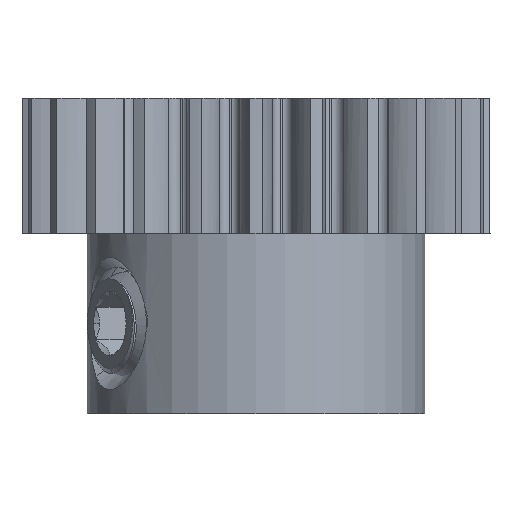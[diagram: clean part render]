
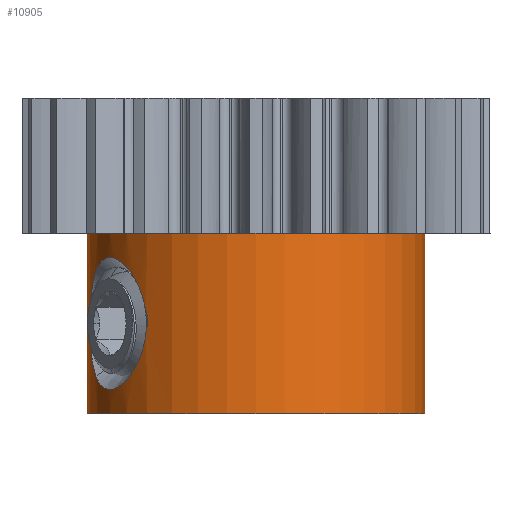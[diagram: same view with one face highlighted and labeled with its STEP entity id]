
A CAD part, front view. The second image highlights one B-rep face of the part: STEP entity #10905.
In plain terms, the highlighted cylindrical face has radius 7.5 mm (diameter 15 mm), a partial arc.
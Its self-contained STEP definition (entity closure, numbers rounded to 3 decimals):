
#499 = CARTESIAN_POINT ( 'NONE',  ( -7.5, 0., -8. ) ) ;
#663 = CARTESIAN_POINT ( 'NONE',  ( -5.617, -4.97, -1.655 ) ) ;
#704 = CARTESIAN_POINT ( 'NONE',  ( -6.387, -3.935, -1.071 ) ) ;
#718 = CARTESIAN_POINT ( 'NONE',  ( -4.922, -5.659, -3.327 ) ) ;
#778 = CARTESIAN_POINT ( 'NONE',  ( -4.88, -5.695, -3.68 ) ) ;
#779 = DIRECTION ( 'NONE',  ( 1., 0., 0. ) ) ;
#828 = CARTESIAN_POINT ( 'NONE',  ( -7.329, -1.602, -2.737 ) ) ;
#889 = CARTESIAN_POINT ( 'NONE',  ( -7.156, -2.251, -6.228 ) ) ;
#1019 = CARTESIAN_POINT ( 'NONE',  ( -5.117, -5.484, -5.42 ) ) ;
#1038 = CARTESIAN_POINT ( 'NONE',  ( 7.5, 0., -8. ) ) ;
#1084 = ORIENTED_EDGE ( 'NONE', *, *, #9774, .T. ) ;
#1369 = CIRCLE ( 'NONE', #12114, 7.5 ) ;
#1570 = EDGE_CURVE ( 'NONE', #2263, #11127, #13764, .T. ) ;
#2123 = VECTOR ( 'NONE', #8057, 1000. ) ;
#2168 = CARTESIAN_POINT ( 'NONE',  ( -6.653, -3.466, -1.086 ) ) ;
#2263 = VERTEX_POINT ( 'NONE', #17162 ) ;
#2305 = CIRCLE ( 'NONE', #12269, 7.5 ) ;
#2310 = CARTESIAN_POINT ( 'NONE',  ( -4.935, -5.648, -4.747 ) ) ;
#2438 = CARTESIAN_POINT ( 'NONE',  ( -6.426, -3.872, -6.935 ) ) ;
#2504 = CARTESIAN_POINT ( 'NONE',  ( -5.244, -5.362, -5.73 ) ) ;
#3439 = DIRECTION ( 'NONE',  ( 0., 0., 1. ) ) ;
#3718 = CARTESIAN_POINT ( 'NONE',  ( -4.874, -5.701, -4.219 ) ) ;
#3776 = CARTESIAN_POINT ( 'NONE',  ( -6.603, -3.562, -6.928 ) ) ;
#3823 = CARTESIAN_POINT ( 'NONE',  ( -5.617, -4.97, -1.655 ) ) ;
#4886 = DIRECTION ( 'NONE',  ( -1., 0., 0. ) ) ;
#4947 = CARTESIAN_POINT ( 'NONE',  ( -4.87, -5.703, -3.861 ) ) ;
#5177 = CARTESIAN_POINT ( 'NONE',  ( -7.192, -2.131, -6.097 ) ) ;
#5187 = CARTESIAN_POINT ( 'NONE',  ( -5.617, -4.97, -1.655 ) ) ;
#5247 = CARTESIAN_POINT ( 'NONE',  ( -6.997, -2.704, -1.396 ) ) ;
#5582 = EDGE_CURVE ( 'NONE', #12495, #12664, #16182, .T. ) ;
#6298 = CARTESIAN_POINT ( 'NONE',  ( 0., 0., 0. ) ) ;
#6526 = CARTESIAN_POINT ( 'NONE',  ( -5.437, -5.173, -1.888 ) ) ;
#6576 = CARTESIAN_POINT ( 'NONE',  ( -7.24, -1.96, -2.122 ) ) ;
#6631 = CARTESIAN_POINT ( 'NONE',  ( -5.797, -4.766, -1.421 ) ) ;
#6645 = CARTESIAN_POINT ( 'NONE',  ( -4.971, -5.616, -4.923 ) ) ;
#6893 = CARTESIAN_POINT ( 'NONE',  ( -7.026, -2.637, -6.579 ) ) ;
#7386 = LINE ( 'NONE', #1038, #2123 ) ;
#7505 = ORIENTED_EDGE ( 'NONE', *, *, #14404, .T. ) ;
#7946 = EDGE_LOOP ( 'NONE', ( #10553, #10039, #1084, #7505 ) ) ;
#7963 = CARTESIAN_POINT ( 'NONE',  ( -7.357, -1.461, -4.85 ) ) ;
#8015 = CARTESIAN_POINT ( 'NONE',  ( -5.999, -4.515, -1.239 ) ) ;
#8057 = DIRECTION ( 'NONE',  ( 0., 0., 1. ) ) ;
#8156 = CARTESIAN_POINT ( 'NONE',  ( -5.744, -4.825, -6.504 ) ) ;
#8195 = CARTESIAN_POINT ( 'NONE',  ( -7.352, -1.482, -3.074 ) ) ;
#8237 = FACE_OUTER_BOUND ( 'NONE', #7946, .T. ) ;
#8276 = CARTESIAN_POINT ( 'NONE',  ( -6.686, -3.403, -6.902 ) ) ;
#8401 = CARTESIAN_POINT ( 'NONE',  ( -5.563, -5.033, -6.279 ) ) ;
#8715 = CARTESIAN_POINT ( 'NONE',  ( 0., 0., -8. ) ) ;
#8811 = ORIENTED_EDGE ( 'NONE', *, *, #5582, .T. ) ;
#8911 = DIRECTION ( 'NONE',  ( -1., 0., 0. ) ) ;
#9188 = EDGE_CURVE ( 'NONE', #12664, #12495, #10953, .T. ) ;
#9409 = CARTESIAN_POINT ( 'NONE',  ( -7.178, -2.179, -1.849 ) ) ;
#9427 = CARTESIAN_POINT ( 'NONE',  ( -4.954, -5.631, -3.154 ) ) ;
#9473 = CARTESIAN_POINT ( 'NONE',  ( -7.14, -2.3, -1.722 ) ) ;
#9537 = AXIS2_PLACEMENT_3D ( 'NONE', #13804, #13867, #779 ) ;
#9605 = CARTESIAN_POINT ( 'NONE',  ( -7.112, -2.38, -6.345 ) ) ;
#9774 = EDGE_CURVE ( 'NONE', #15999, #11987, #7386, .T. ) ;
#10039 = ORIENTED_EDGE ( 'NONE', *, *, #12651, .F. ) ;
#10386 = VECTOR ( 'NONE', #3439, 1000. ) ;
#10553 = ORIENTED_EDGE ( 'NONE', *, *, #1570, .F. ) ;
#10905 = ADVANCED_FACE ( 'NONE', ( #8237, #17376 ), #16211, .T. ) ;
#10953 = B_SPLINE_CURVE_WITH_KNOTS ( 'NONE', 3,
 ( #18251, #889, #5177, #13907, #16909, #10956, #7963, #18144, #11010, #8195, #828, #15318, #6576, #9409, #9473, #16714, #5247, #12596, #13849, #2168, #15375, #704, #16848, #8015, #6631, #3823 ),
 .UNSPECIFIED., .F., .F.,
 ( 4, 2, 2, 2, 2, 2, 2, 2, 2, 2, 2, 2, 4 ),
 ( 0.002, 0.002, 0.003, 0.004, 0.005, 0.006, 0.007, 0.007, 0.008, 0.008, 0.009, 0.009, 0.01 ),
 .UNSPECIFIED. ) ;
#10956 = CARTESIAN_POINT ( 'NONE',  ( -7.335, -1.572, -5.191 ) ) ;
#11010 = CARTESIAN_POINT ( 'NONE',  ( -7.377, -1.356, -3.781 ) ) ;
#11087 = CARTESIAN_POINT ( 'NONE',  ( -6.135, -4.318, -6.831 ) ) ;
#11127 = VERTEX_POINT ( 'NONE', #11873 ) ;
#11202 = CARTESIAN_POINT ( 'NONE',  ( -5.841, -4.707, -6.605 ) ) ;
#11453 = ORIENTED_EDGE ( 'NONE', *, *, #9188, .T. ) ;
#11873 = CARTESIAN_POINT ( 'NONE',  ( -7.5, 0., 0. ) ) ;
#11987 = VERTEX_POINT ( 'NONE', #17273 ) ;
#12114 = AXIS2_PLACEMENT_3D ( 'NONE', #6298, #16448, #4886 ) ;
#12269 = AXIS2_PLACEMENT_3D ( 'NONE', #8715, #17647, #8911 ) ;
#12495 = VERTEX_POINT ( 'NONE', #5187 ) ;
#12502 = CARTESIAN_POINT ( 'NONE',  ( -6.036, -4.455, -6.767 ) ) ;
#12596 = CARTESIAN_POINT ( 'NONE',  ( -6.876, -2.999, -1.233 ) ) ;
#12651 = EDGE_CURVE ( 'NONE', #15999, #2263, #2305, .T. ) ;
#12664 = VERTEX_POINT ( 'NONE', #15636 ) ;
#13632 = CARTESIAN_POINT ( 'NONE',  ( -5.092, -5.507, -2.648 ) ) ;
#13764 = LINE ( 'NONE', #499, #10386 ) ;
#13804 = CARTESIAN_POINT ( 'NONE',  ( 0., 0., -8. ) ) ;
#13849 = CARTESIAN_POINT ( 'NONE',  ( -6.806, -3.155, -1.169 ) ) ;
#13866 = CARTESIAN_POINT ( 'NONE',  ( -5.062, -5.535, -5.258 ) ) ;
#13867 = DIRECTION ( 'NONE',  ( 0., 0., 1. ) ) ;
#13907 = CARTESIAN_POINT ( 'NONE',  ( -7.252, -1.917, -5.817 ) ) ;
#14404 = EDGE_CURVE ( 'NONE', #11987, #11127, #1369, .T. ) ;
#15086 = CARTESIAN_POINT ( 'NONE',  ( -4.887, -5.689, -4.396 ) ) ;
#15318 = CARTESIAN_POINT ( 'NONE',  ( -7.266, -1.862, -2.268 ) ) ;
#15375 = CARTESIAN_POINT ( 'NONE',  ( -6.569, -3.624, -1.065 ) ) ;
#15636 = CARTESIAN_POINT ( 'NONE',  ( -7.112, -2.38, -6.345 ) ) ;
#15999 = VERTEX_POINT ( 'NONE', #18839 ) ;
#16182 = B_SPLINE_CURVE_WITH_KNOTS ( 'NONE', 3,
 ( #663, #6526, #16674, #13632, #18159, #9427, #718, #778, #4947, #3718, #15086, #2310, #6645, #13866, #1019, #2504, #16994, #17116, #8401, #8156, #11202, #12502, #11087, #18572, #2438, #3776, #8276, #18329, #6893, #9605 ),
 .UNSPECIFIED., .F., .F.,
 ( 4, 2, 2, 2, 2, 2, 2, 2, 2, 2, 2, 2, 2, 2, 4 ),
 ( 0.01, 0.012, 0.012, 0.013, 0.013, 0.014, 0.014, 0.015, 0.015, 0.016, 0.016, 0.017, 0.017, 0.018, 0.019 ),
 .UNSPECIFIED. ) ;
#16211 = CYLINDRICAL_SURFACE ( 'NONE', #9537, 7.5 ) ;
#16448 = DIRECTION ( 'NONE',  ( 0., 0., -1. ) ) ;
#16674 = CARTESIAN_POINT ( 'NONE',  ( -5.277, -5.332, -2.176 ) ) ;
#16714 = CARTESIAN_POINT ( 'NONE',  ( -7.049, -2.564, -1.494 ) ) ;
#16848 = CARTESIAN_POINT ( 'NONE',  ( -6.293, -4.085, -1.097 ) ) ;
#16901 = EDGE_LOOP ( 'NONE', ( #11453, #8811 ) ) ;
#16909 = CARTESIAN_POINT ( 'NONE',  ( -7.276, -1.822, -5.667 ) ) ;
#16994 = CARTESIAN_POINT ( 'NONE',  ( -5.318, -5.29, -5.879 ) ) ;
#17116 = CARTESIAN_POINT ( 'NONE',  ( -5.477, -5.125, -6.153 ) ) ;
#17162 = CARTESIAN_POINT ( 'NONE',  ( -7.5, 0., -8. ) ) ;
#17273 = CARTESIAN_POINT ( 'NONE',  ( 7.5, 0., 0. ) ) ;
#17376 = FACE_BOUND ( 'NONE', #16901, .T. ) ;
#17647 = DIRECTION ( 'NONE',  ( 0., 0., -1. ) ) ;
#18144 = CARTESIAN_POINT ( 'NONE',  ( -7.377, -1.351, -4.139 ) ) ;
#18159 = CARTESIAN_POINT ( 'NONE',  ( -5.039, -5.555, -2.815 ) ) ;
#18251 = CARTESIAN_POINT ( 'NONE',  ( -7.112, -2.38, -6.345 ) ) ;
#18329 = CARTESIAN_POINT ( 'NONE',  ( -6.91, -2.935, -6.759 ) ) ;
#18572 = CARTESIAN_POINT ( 'NONE',  ( -6.33, -4.026, -6.915 ) ) ;
#18839 = CARTESIAN_POINT ( 'NONE',  ( 7.5, 0., -8. ) ) ;
